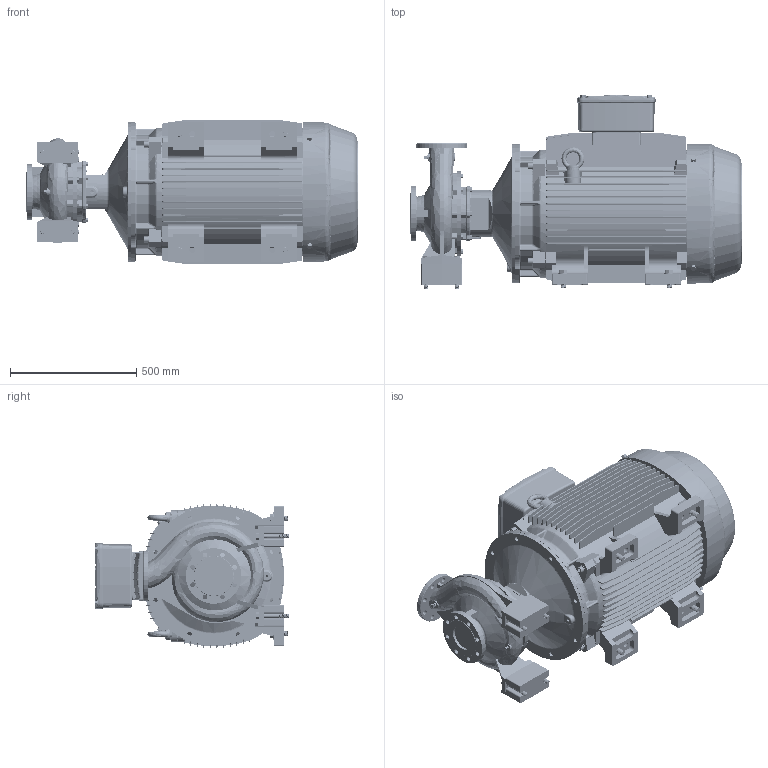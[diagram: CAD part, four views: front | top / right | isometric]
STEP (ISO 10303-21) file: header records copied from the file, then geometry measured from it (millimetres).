
FILE_DESCRIPTION (( 'STEP AP214' ), '1' );
FILE_NAME ('GSD2 80-250_90 & 110_(280SM)_W21.STEP', '2026-07-08T02:58:42', ( '' ), ( '' ), 'SwSTEP 2.0', 'SolidWorks 2024', '' );
FILE_SCHEMA (( 'AUTOMOTIVE_DESIGN' ));
Length unit declared in the file: millimetre
Products named in the file (11): GSD2  80-250_90 & 110_(280SM)_W21; 80-250-280S_M_ﾃﾞﾌｫﾙﾄ; CGS11-5321_2_3_4_5_CGS11-5322; Parametric bolt_SFT-A387B; Parametric Flat Washer_M20; Parametric bolt and washer_SFT-A387B; CGS11-5321_2_3_4_5_CGS11-5324; Parametric bolt and washer_SFT-A411B; 280S_M2P IE3_W21T_B35; Parametric bolt_SFT-A411B; Parametric Flat Washer_M16
Assembly tree (20 placements, depth 3):
  GSD2  80-250_90 & 110_(280SM)_W21
    80-250-280S_M_ﾃﾞﾌｫﾙﾄ
    280S_M2P IE3_W21T_B35
    CGS11-5321_2_3_4_5_CGS11-5324  x2
    CGS11-5321_2_3_4_5_CGS11-5322  x4
    Parametric bolt and washer_SFT-A387B  x4
      Parametric bolt_SFT-A387B
      Parametric Flat Washer_M16
    Parametric bolt and washer_SFT-A411B  x4
      Parametric bolt_SFT-A411B
      Parametric Flat Washer_M20
Bounding box: 1313 x 767.6 x 569.62 mm (x, y, z)
Volume: 227886237.4 mm3; surface area: 6360216.6 mm2
Topology: 32 solids, 39 shells, 4158 faces, 10976 edges, 7009 vertices
Faces by surface type: plane 1722, cylinder 1379, cone 511, torus 281, bspline 235, sphere 30
Entity records: 157093 total; most frequent: CARTESIAN_POINT 70200, ORIENTED_EDGE 18866, DIRECTION 17497, EDGE_CURVE 9433, AXIS2_PLACEMENT_3D 6474, VERTEX_POINT 6014, VECTOR 4549, LINE 4549
